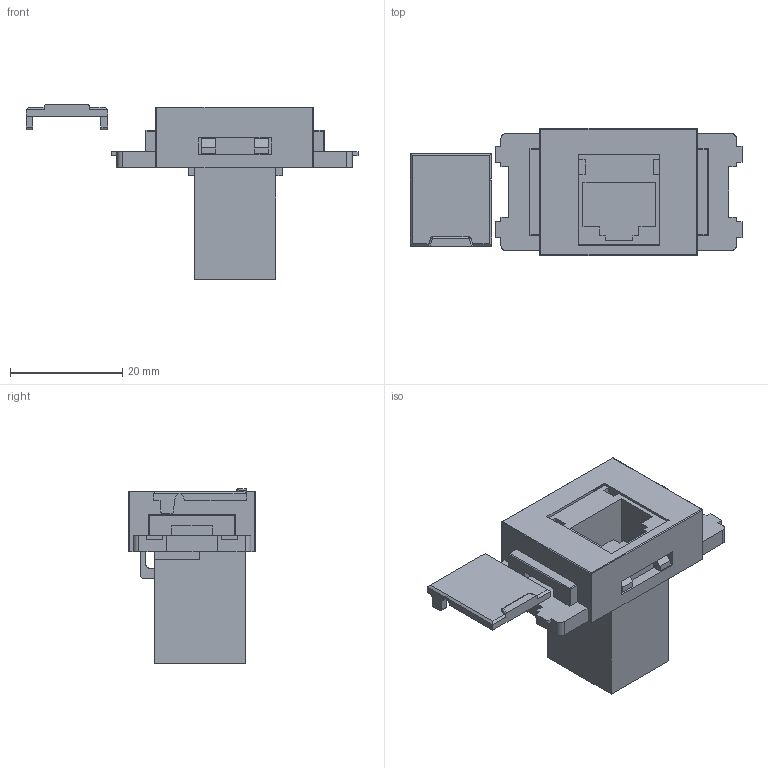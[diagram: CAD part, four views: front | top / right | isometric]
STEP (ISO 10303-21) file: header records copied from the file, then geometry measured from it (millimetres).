
FILE_DESCRIPTION(('FreeCAD Model'),'2;1');
FILE_NAME('Open CASCADE Shape Model','2026-05-12T09:37:18',(''),(''), 'Open CASCADE STEP processor 7.8','FreeCAD','Unknown');
FILE_SCHEMA(('AUTOMOTIVE_DESIGN { 1 0 10303 214 1 1 1 1 }'));
Length unit declared in the file: millimetre
Products named in the file (3): CC_C6_CV_WH_KH; SY-NWT-KH-xx; SY-350C8
Assembly tree (2 placements, depth 2):
  CC_C6_CV_WH_KH
    SY-NWT-KH-xx
    SY-350C8
Bounding box: 59.15 x 22.65 x 31.15 mm (x, y, z)
Volume: 8444.9 mm3; surface area: 8320.8 mm2
Topology: 3 solids, 3 shells, 229 faces, 1243 edges, 2882 vertices
Faces by surface type: bspline 229
Entity records: 20061 total; most frequent: CARTESIAN_POINT 12505, ORIENTED_EDGE 1246, B_SPLINE_CURVE_WITH_KNOTS 1243, EDGE_CURVE 623, GEOMETRIC_CURVE_SET 621, TRIMMED_CURVE 620, VERTEX_POINT 402, FACE_BOUND 241
